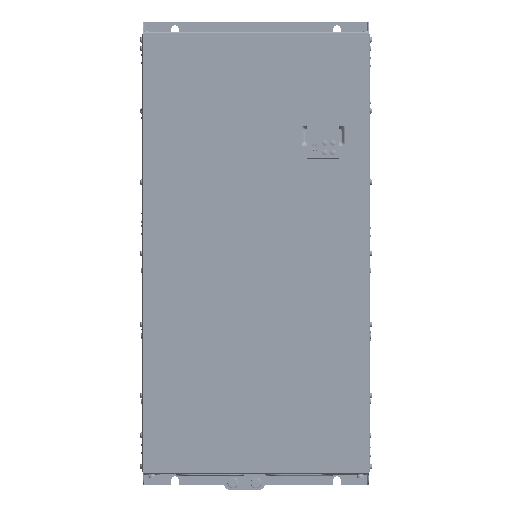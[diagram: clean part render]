
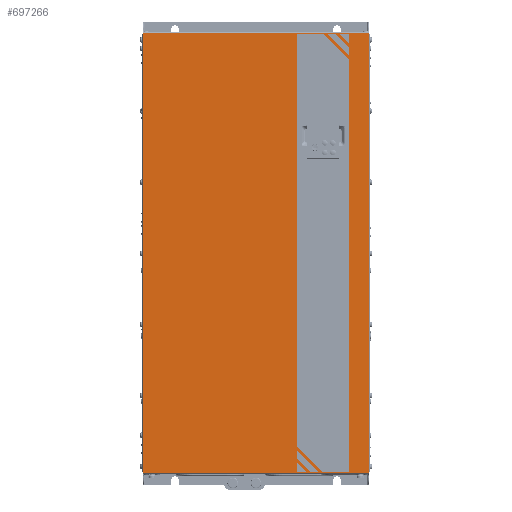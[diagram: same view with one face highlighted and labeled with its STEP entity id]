
A CAD part, top view. The second image highlights one B-rep face of the part: STEP entity #697266.
In plain terms, the highlighted planar face has unit normal (0, 0, 1).
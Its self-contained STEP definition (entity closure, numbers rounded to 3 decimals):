
#693660=DIRECTION('',(0.,-1.,0.));
#693661=VECTOR('',#693660,761.);
#693662=CARTESIAN_POINT('',(195.05,0.5,299.7));
#693663=LINE('',#693662,#693661);
#693939=DIRECTION('',(0.,-1.,0.));
#693940=VECTOR('',#693939,761.);
#693941=CARTESIAN_POINT('',(-195.05,0.5,299.7));
#693942=LINE('',#693941,#693940);
#694604=DIRECTION('',(-1.,0.,0.));
#694605=VECTOR('',#694604,390.1);
#694606=CARTESIAN_POINT('',(195.05,0.5,299.7));
#694607=LINE('',#694606,#694605);
#694611=DIRECTION('',(-1.,0.,0.));
#694612=VECTOR('',#694611,390.1);
#694613=CARTESIAN_POINT('',(195.05,-760.5,299.7));
#694614=LINE('',#694613,#694612);
#694618=DIRECTION('',(0.,-1.,0.));
#694619=VECTOR('',#694618,16.);
#694620=CARTESIAN_POINT('',(71.,-742.5,299.7));
#694621=LINE('',#694620,#694619);
#694625=DIRECTION('',(1.,0.,0.));
#694626=VECTOR('',#694625,16.);
#694627=CARTESIAN_POINT('',(71.,-758.5,299.7));
#694628=LINE('',#694627,#694626);
#694632=DIRECTION('',(-0.707,0.707,0.));
#694633=VECTOR('',#694632,22.627);
#694634=CARTESIAN_POINT('',(87.,-758.5,299.7));
#694635=LINE('',#694634,#694633);
#694639=DIRECTION('',(0.,-1.,0.));
#694640=VECTOR('',#694639,16.);
#694641=CARTESIAN_POINT('',(161.,-1.5,299.7));
#694642=LINE('',#694641,#694640);
#694646=DIRECTION('',(-1.,0.,0.));
#694647=VECTOR('',#694646,16.);
#694648=CARTESIAN_POINT('',(161.,-1.5,299.7));
#694649=LINE('',#694648,#694647);
#694653=DIRECTION('',(0.707,-0.707,0.));
#694654=VECTOR('',#694653,22.627);
#694655=CARTESIAN_POINT('',(145.,-1.5,299.7));
#694656=LINE('',#694655,#694654);
#694660=DIRECTION('',(0.,-1.,0.));
#694661=VECTOR('',#694660,712.716);
#694662=CARTESIAN_POINT('',(71.,-1.5,299.7));
#694663=LINE('',#694662,#694661);
#694667=DIRECTION('',(-0.707,0.707,0.));
#694668=VECTOR('',#694667,62.627);
#694669=CARTESIAN_POINT('',(115.284,-758.5,299.7));
#694670=LINE('',#694669,#694668);
#694674=DIRECTION('',(1.,0.,0.));
#694675=VECTOR('',#694674,45.716);
#694676=CARTESIAN_POINT('',(115.284,-758.5,299.7));
#694677=LINE('',#694676,#694675);
#694681=DIRECTION('',(0.,1.,0.));
#694682=VECTOR('',#694681,712.716);
#694683=CARTESIAN_POINT('',(161.,-758.5,299.7));
#694684=LINE('',#694683,#694682);
#694688=DIRECTION('',(0.707,-0.707,0.));
#694689=VECTOR('',#694688,62.627);
#694690=CARTESIAN_POINT('',(116.716,-1.5,299.7));
#694691=LINE('',#694690,#694689);
#694695=DIRECTION('',(-1.,0.,0.));
#694696=VECTOR('',#694695,45.716);
#694697=CARTESIAN_POINT('',(116.716,-1.5,299.7));
#694698=LINE('',#694697,#694696);
#694702=DIRECTION('',(0.707,-0.707,0.));
#694703=VECTOR('',#694702,52.627);
#694704=CARTESIAN_POINT('',(123.787,-1.5,299.7));
#694705=LINE('',#694704,#694703);
#694709=DIRECTION('',(0.,1.,0.));
#694710=VECTOR('',#694709,14.142);
#694711=CARTESIAN_POINT('',(161.,-38.713,299.7));
#694712=LINE('',#694711,#694710);
#694716=DIRECTION('',(0.707,-0.707,0.));
#694717=VECTOR('',#694716,32.627);
#694718=CARTESIAN_POINT('',(137.929,-1.5,299.7));
#694719=LINE('',#694718,#694717);
#694723=DIRECTION('',(-1.,0.,0.));
#694724=VECTOR('',#694723,14.142);
#694725=CARTESIAN_POINT('',(137.929,-1.5,299.7));
#694726=LINE('',#694725,#694724);
#694730=DIRECTION('',(-0.707,0.707,0.));
#694731=VECTOR('',#694730,52.627);
#694732=CARTESIAN_POINT('',(108.213,-758.5,299.7));
#694733=LINE('',#694732,#694731);
#694737=DIRECTION('',(0.,-1.,0.));
#694738=VECTOR('',#694737,14.142);
#694739=CARTESIAN_POINT('',(71.,-721.287,299.7));
#694740=LINE('',#694739,#694738);
#694744=DIRECTION('',(-0.707,0.707,0.));
#694745=VECTOR('',#694744,32.627);
#694746=CARTESIAN_POINT('',(94.071,-758.5,299.7));
#694747=LINE('',#694746,#694745);
#694751=DIRECTION('',(1.,0.,0.));
#694752=VECTOR('',#694751,14.142);
#694753=CARTESIAN_POINT('',(94.071,-758.5,299.7));
#694754=LINE('',#694753,#694752);
#695659=CARTESIAN_POINT('',(195.05,-760.5,299.7));
#695661=VERTEX_POINT('',#695659);
#695663=CARTESIAN_POINT('',(-195.05,-760.5,299.7));
#695665=VERTEX_POINT('',#695663);
#695666=CARTESIAN_POINT('',(-195.05,0.5,299.7));
#695667=VERTEX_POINT('',#695666);
#695668=CARTESIAN_POINT('',(195.05,0.5,299.7));
#695669=VERTEX_POINT('',#695668);
#695730=CARTESIAN_POINT('',(71.,-742.5,299.7));
#695731=CARTESIAN_POINT('',(71.,-758.5,299.7));
#695732=VERTEX_POINT('',#695730);
#695733=VERTEX_POINT('',#695731);
#695734=CARTESIAN_POINT('',(161.,-1.5,299.7));
#695735=CARTESIAN_POINT('',(161.,-17.5,299.7));
#695736=VERTEX_POINT('',#695734);
#695737=VERTEX_POINT('',#695735);
#695938=CARTESIAN_POINT('',(71.,-1.5,299.7));
#695939=CARTESIAN_POINT('',(71.,-714.216,299.7));
#695940=VERTEX_POINT('',#695938);
#695941=VERTEX_POINT('',#695939);
#695942=CARTESIAN_POINT('',(115.284,-758.5,299.7));
#695943=VERTEX_POINT('',#695942);
#695944=CARTESIAN_POINT('',(161.,-758.5,299.7));
#695945=CARTESIAN_POINT('',(161.,-45.784,299.7));
#695946=VERTEX_POINT('',#695944);
#695947=VERTEX_POINT('',#695945);
#695948=CARTESIAN_POINT('',(116.716,-1.5,299.7));
#695949=VERTEX_POINT('',#695948);
#695950=CARTESIAN_POINT('',(123.787,-1.5,299.7));
#695951=CARTESIAN_POINT('',(161.,-38.713,299.7));
#695952=VERTEX_POINT('',#695950);
#695953=VERTEX_POINT('',#695951);
#695954=CARTESIAN_POINT('',(161.,-24.571,299.7));
#695955=VERTEX_POINT('',#695954);
#695956=CARTESIAN_POINT('',(137.929,-1.5,299.7));
#695957=VERTEX_POINT('',#695956);
#695958=CARTESIAN_POINT('',(145.,-1.5,299.7));
#695959=VERTEX_POINT('',#695958);
#695960=CARTESIAN_POINT('',(108.213,-758.5,299.7));
#695961=CARTESIAN_POINT('',(71.,-721.287,299.7));
#695962=VERTEX_POINT('',#695960);
#695963=VERTEX_POINT('',#695961);
#695964=CARTESIAN_POINT('',(71.,-735.429,299.7));
#695965=VERTEX_POINT('',#695964);
#695966=CARTESIAN_POINT('',(94.071,-758.5,299.7));
#695967=VERTEX_POINT('',#695966);
#695968=CARTESIAN_POINT('',(87.,-758.5,299.7));
#695969=VERTEX_POINT('',#695968);
#697204=CARTESIAN_POINT('',(-196.25,1.7,299.7));
#697205=DIRECTION('',(0.,0.,1.));
#697206=DIRECTION('',(0.,-1.,0.));
#697207=AXIS2_PLACEMENT_3D('',#697204,#697205,#697206);
#697208=PLANE('',#697207);
#697209=ORIENTED_EDGE('',*,*,#697196,.F.);
#697210=ORIENTED_EDGE('',*,*,#696318,.T.);
#697212=ORIENTED_EDGE('',*,*,#697211,.T.);
#697213=ORIENTED_EDGE('',*,*,#696610,.F.);
#697214=EDGE_LOOP('',(#697209,#697210,#697212,#697213));
#697215=FACE_OUTER_BOUND('',#697214,.F.);
#697217=ORIENTED_EDGE('',*,*,#697216,.T.);
#697219=ORIENTED_EDGE('',*,*,#697218,.T.);
#697221=ORIENTED_EDGE('',*,*,#697220,.T.);
#697222=EDGE_LOOP('',(#697217,#697219,#697221));
#697223=FACE_BOUND('',#697222,.F.);
#697225=ORIENTED_EDGE('',*,*,#697224,.F.);
#697227=ORIENTED_EDGE('',*,*,#697226,.T.);
#697229=ORIENTED_EDGE('',*,*,#697228,.T.);
#697230=EDGE_LOOP('',(#697225,#697227,#697229));
#697231=FACE_BOUND('',#697230,.F.);
#697233=ORIENTED_EDGE('',*,*,#697232,.T.);
#697235=ORIENTED_EDGE('',*,*,#697234,.F.);
#697237=ORIENTED_EDGE('',*,*,#697236,.T.);
#697239=ORIENTED_EDGE('',*,*,#697238,.T.);
#697241=ORIENTED_EDGE('',*,*,#697240,.F.);
#697243=ORIENTED_EDGE('',*,*,#697242,.T.);
#697244=EDGE_LOOP('',(#697233,#697235,#697237,#697239,#697241,#697243));
#697245=FACE_BOUND('',#697244,.F.);
#697247=ORIENTED_EDGE('',*,*,#697246,.T.);
#697249=ORIENTED_EDGE('',*,*,#697248,.T.);
#697251=ORIENTED_EDGE('',*,*,#697250,.F.);
#697253=ORIENTED_EDGE('',*,*,#697252,.T.);
#697254=EDGE_LOOP('',(#697247,#697249,#697251,#697253));
#697255=FACE_BOUND('',#697254,.F.);
#697257=ORIENTED_EDGE('',*,*,#697256,.T.);
#697259=ORIENTED_EDGE('',*,*,#697258,.T.);
#697261=ORIENTED_EDGE('',*,*,#697260,.F.);
#697263=ORIENTED_EDGE('',*,*,#697262,.T.);
#697264=EDGE_LOOP('',(#697257,#697259,#697261,#697263));
#697265=FACE_BOUND('',#697264,.F.);
#697266=ADVANCED_FACE('',(#697215,#697223,#697231,#697245,#697255,#697265),
#697208,.T.);
#696318=EDGE_CURVE('',#695669,#695661,#693663,.T.);
#696610=EDGE_CURVE('',#695667,#695665,#693942,.T.);
#697196=EDGE_CURVE('',#695669,#695667,#694607,.T.);
#697211=EDGE_CURVE('',#695661,#695665,#694614,.T.);
#697216=EDGE_CURVE('',#695732,#695733,#694621,.T.);
#697218=EDGE_CURVE('',#695733,#695969,#694628,.T.);
#697220=EDGE_CURVE('',#695969,#695732,#694635,.T.);
#697224=EDGE_CURVE('',#695736,#695737,#694642,.T.);
#697226=EDGE_CURVE('',#695736,#695959,#694649,.T.);
#697228=EDGE_CURVE('',#695959,#695737,#694656,.T.);
#697232=EDGE_CURVE('',#695940,#695941,#694663,.T.);
#697234=EDGE_CURVE('',#695943,#695941,#694670,.T.);
#697236=EDGE_CURVE('',#695943,#695946,#694677,.T.);
#697238=EDGE_CURVE('',#695946,#695947,#694684,.T.);
#697240=EDGE_CURVE('',#695949,#695947,#694691,.T.);
#697242=EDGE_CURVE('',#695949,#695940,#694698,.T.);
#697246=EDGE_CURVE('',#695952,#695953,#694705,.T.);
#697248=EDGE_CURVE('',#695953,#695955,#694712,.T.);
#697250=EDGE_CURVE('',#695957,#695955,#694719,.T.);
#697252=EDGE_CURVE('',#695957,#695952,#694726,.T.);
#697256=EDGE_CURVE('',#695962,#695963,#694733,.T.);
#697258=EDGE_CURVE('',#695963,#695965,#694740,.T.);
#697260=EDGE_CURVE('',#695967,#695965,#694747,.T.);
#697262=EDGE_CURVE('',#695967,#695962,#694754,.T.);
